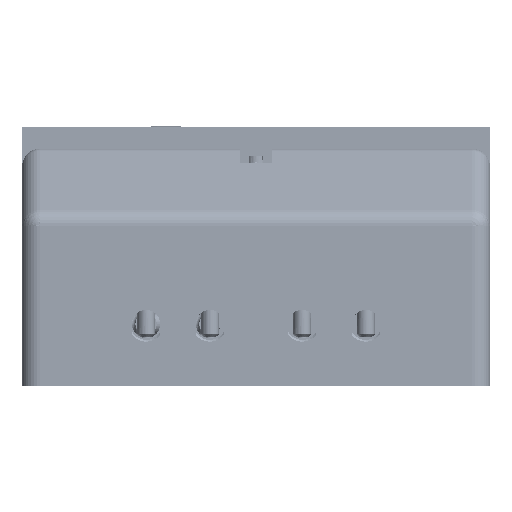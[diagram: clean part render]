
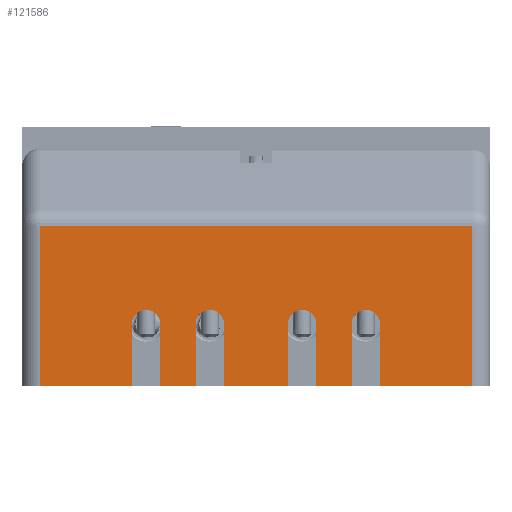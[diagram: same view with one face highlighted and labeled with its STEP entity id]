
A CAD part, front view. The second image highlights one B-rep face of the part: STEP entity #121586.
In plain terms, the highlighted planar face has unit normal (0, -1, 0).
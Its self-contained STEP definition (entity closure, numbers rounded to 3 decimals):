
#121586=ADVANCED_FACE('',(#328172),#328174,.F.);
#328172=FACE_BOUND('',#328173,.T.);
#328173=EDGE_LOOP('',(#504479,#504480,#504481,#504482,#504483,#504484,#504485,#504486,
#504487,#504488,#504489,#504490,#504491,#504492,#504493,#504494,#504495,#504496,
#504497,#504498));
#328174=PLANE('',#328175);
#328175=AXIS2_PLACEMENT_3D('',#328176,#328177,#328178);
#328176=CARTESIAN_POINT('',(66.,-98.2,-71.6));
#328177=DIRECTION('',(0.,1.,0.));
#328178=DIRECTION('',(0.,0.,1.));
#504479=ORIENTED_EDGE('',*,*,#598275,.F.);
#504480=ORIENTED_EDGE('',*,*,#598333,.T.);
#504481=ORIENTED_EDGE('',*,*,#598544,.T.);
#504482=ORIENTED_EDGE('',*,*,#598324,.T.);
#504483=ORIENTED_EDGE('',*,*,#598269,.F.);
#504484=ORIENTED_EDGE('',*,*,#598305,.F.);
#504485=ORIENTED_EDGE('',*,*,#598303,.F.);
#504486=ORIENTED_EDGE('',*,*,#598301,.F.);
#504487=ORIENTED_EDGE('',*,*,#598299,.F.);
#504488=ORIENTED_EDGE('',*,*,#598297,.F.);
#504489=ORIENTED_EDGE('',*,*,#598295,.F.);
#504490=ORIENTED_EDGE('',*,*,#598293,.F.);
#504491=ORIENTED_EDGE('',*,*,#598291,.F.);
#504492=ORIENTED_EDGE('',*,*,#598289,.F.);
#504493=ORIENTED_EDGE('',*,*,#598287,.F.);
#504494=ORIENTED_EDGE('',*,*,#598285,.F.);
#504495=ORIENTED_EDGE('',*,*,#598283,.F.);
#504496=ORIENTED_EDGE('',*,*,#598281,.F.);
#504497=ORIENTED_EDGE('',*,*,#598279,.F.);
#504498=ORIENTED_EDGE('',*,*,#598277,.F.);
#598269=EDGE_CURVE('',#685187,#685189,#685190,.T.);
#598275=EDGE_CURVE('',#685197,#685199,#685200,.T.);
#598277=EDGE_CURVE('',#685199,#685202,#685203,.T.);
#598279=EDGE_CURVE('',#685202,#685205,#685206,.T.);
#598281=EDGE_CURVE('',#685205,#685208,#685209,.T.);
#598283=EDGE_CURVE('',#685208,#685211,#685212,.T.);
#598285=EDGE_CURVE('',#685211,#685214,#685215,.T.);
#598287=EDGE_CURVE('',#685214,#685217,#685218,.T.);
#598289=EDGE_CURVE('',#685217,#685220,#685221,.T.);
#598291=EDGE_CURVE('',#685220,#685223,#685224,.T.);
#598293=EDGE_CURVE('',#685223,#685226,#685227,.T.);
#598295=EDGE_CURVE('',#685226,#685229,#685230,.T.);
#598297=EDGE_CURVE('',#685229,#685232,#685233,.T.);
#598299=EDGE_CURVE('',#685232,#685235,#685236,.T.);
#598301=EDGE_CURVE('',#685235,#685238,#685239,.T.);
#598303=EDGE_CURVE('',#685238,#685241,#685242,.T.);
#598305=EDGE_CURVE('',#685241,#685187,#685244,.T.);
#598324=EDGE_CURVE('',#685271,#685189,#685272,.T.);
#598333=EDGE_CURVE('',#685197,#685280,#685282,.T.);
#598544=EDGE_CURVE('',#685280,#685271,#685600,.T.);
#685187=VERTEX_POINT('',#900590);
#685189=VERTEX_POINT('',#900594);
#685190=LINE('',#900595,#900596);
#685197=VERTEX_POINT('',#900613);
#685199=VERTEX_POINT('',#900618);
#685200=LINE('',#900619,#900620);
#685202=VERTEX_POINT('',#900625);
#685203=LINE('',#900626,#900627);
#685205=VERTEX_POINT('',#900632);
#685206=CIRCLE('',#900633,4.);
#685208=VERTEX_POINT('',#900640);
#685209=LINE('',#900641,#900642);
#685211=VERTEX_POINT('',#900647);
#685212=LINE('',#900648,#900649);
#685214=VERTEX_POINT('',#900654);
#685215=LINE('',#900655,#900656);
#685217=VERTEX_POINT('',#900661);
#685218=CIRCLE('',#900662,4.);
#685220=VERTEX_POINT('',#900669);
#685221=LINE('',#900670,#900671);
#685223=VERTEX_POINT('',#900676);
#685224=LINE('',#900677,#900678);
#685226=VERTEX_POINT('',#900683);
#685227=LINE('',#900684,#900685);
#685229=VERTEX_POINT('',#900690);
#685230=CIRCLE('',#900691,4.);
#685232=VERTEX_POINT('',#900698);
#685233=LINE('',#900699,#900700);
#685235=VERTEX_POINT('',#900705);
#685236=LINE('',#900706,#900707);
#685238=VERTEX_POINT('',#900712);
#685239=LINE('',#900713,#900714);
#685241=VERTEX_POINT('',#900719);
#685242=CIRCLE('',#900720,4.);
#685244=LINE('',#900727,#900728);
#685271=VERTEX_POINT('',#900792);
#685272=LINE('',#900793,#900794);
#685280=VERTEX_POINT('',#900824);
#685282=LINE('',#900829,#900830);
#685600=LINE('',#902314,#902315);
#900590=CARTESIAN_POINT('',(-35.,-98.2,-71.6));
#900594=CARTESIAN_POINT('',(-61.,-98.2,-71.6));
#900595=CARTESIAN_POINT('',(-35.,-98.2,-71.6));
#900596=VECTOR('',#900597,1.);
#900597=DIRECTION('',(-1.,0.,0.));
#900613=CARTESIAN_POINT('',(61.,-98.2,-71.6));
#900618=CARTESIAN_POINT('',(35.,-98.2,-71.6));
#900619=CARTESIAN_POINT('',(61.,-98.2,-71.6));
#900620=VECTOR('',#900621,1.);
#900621=DIRECTION('',(-1.,0.,0.));
#900625=CARTESIAN_POINT('',(35.,-98.2,-54.1));
#900626=CARTESIAN_POINT('',(35.,-98.2,-71.6));
#900627=VECTOR('',#900628,1.);
#900628=DIRECTION('',(0.,0.,1.));
#900632=CARTESIAN_POINT('',(27.,-98.2,-54.1));
#900633=AXIS2_PLACEMENT_3D('',#900634,#900635,#900636);
#900634=CARTESIAN_POINT('',(31.,-98.2,-54.1));
#900635=DIRECTION('',(0.,-1.,0.));
#900636=DIRECTION('',(1.,0.,0.));
#900640=CARTESIAN_POINT('',(27.,-98.2,-71.6));
#900641=CARTESIAN_POINT('',(27.,-98.2,-54.1));
#900642=VECTOR('',#900643,1.);
#900643=DIRECTION('',(0.,0.,-1.));
#900647=CARTESIAN_POINT('',(17.,-98.2,-71.6));
#900648=CARTESIAN_POINT('',(27.,-98.2,-71.6));
#900649=VECTOR('',#900650,1.);
#900650=DIRECTION('',(-1.,0.,0.));
#900654=CARTESIAN_POINT('',(17.,-98.2,-54.1));
#900655=CARTESIAN_POINT('',(17.,-98.2,-71.6));
#900656=VECTOR('',#900657,1.);
#900657=DIRECTION('',(0.,0.,1.));
#900661=CARTESIAN_POINT('',(9.,-98.2,-54.1));
#900662=AXIS2_PLACEMENT_3D('',#900663,#900664,#900665);
#900663=CARTESIAN_POINT('',(13.,-98.2,-54.1));
#900664=DIRECTION('',(0.,-1.,0.));
#900665=DIRECTION('',(1.,0.,0.));
#900669=CARTESIAN_POINT('',(9.,-98.2,-71.6));
#900670=CARTESIAN_POINT('',(9.,-98.2,-54.1));
#900671=VECTOR('',#900672,1.);
#900672=DIRECTION('',(0.,0.,-1.));
#900676=CARTESIAN_POINT('',(-9.,-98.2,-71.6));
#900677=CARTESIAN_POINT('',(9.,-98.2,-71.6));
#900678=VECTOR('',#900679,1.);
#900679=DIRECTION('',(-1.,0.,0.));
#900683=CARTESIAN_POINT('',(-9.,-98.2,-54.1));
#900684=CARTESIAN_POINT('',(-9.,-98.2,-71.6));
#900685=VECTOR('',#900686,1.);
#900686=DIRECTION('',(0.,0.,1.));
#900690=CARTESIAN_POINT('',(-17.,-98.2,-54.1));
#900691=AXIS2_PLACEMENT_3D('',#900692,#900693,#900694);
#900692=CARTESIAN_POINT('',(-13.,-98.2,-54.1));
#900693=DIRECTION('',(0.,-1.,0.));
#900694=DIRECTION('',(1.,0.,0.));
#900698=CARTESIAN_POINT('',(-17.,-98.2,-71.6));
#900699=CARTESIAN_POINT('',(-17.,-98.2,-54.1));
#900700=VECTOR('',#900701,1.);
#900701=DIRECTION('',(0.,0.,-1.));
#900705=CARTESIAN_POINT('',(-27.,-98.2,-71.6));
#900706=CARTESIAN_POINT('',(-17.,-98.2,-71.6));
#900707=VECTOR('',#900708,1.);
#900708=DIRECTION('',(-1.,0.,0.));
#900712=CARTESIAN_POINT('',(-27.,-98.2,-54.1));
#900713=CARTESIAN_POINT('',(-27.,-98.2,-71.6));
#900714=VECTOR('',#900715,1.);
#900715=DIRECTION('',(0.,0.,1.));
#900719=CARTESIAN_POINT('',(-35.,-98.2,-54.1));
#900720=AXIS2_PLACEMENT_3D('',#900721,#900722,#900723);
#900721=CARTESIAN_POINT('',(-31.,-98.2,-54.1));
#900722=DIRECTION('',(0.,-1.,0.));
#900723=DIRECTION('',(1.,0.,0.));
#900727=CARTESIAN_POINT('',(-35.,-98.2,-54.1));
#900728=VECTOR('',#900729,1.);
#900729=DIRECTION('',(0.,0.,-1.));
#900792=CARTESIAN_POINT('',(-61.,-98.2,-26.351));
#900793=CARTESIAN_POINT('',(-61.,-98.2,-26.351));
#900794=VECTOR('',#900795,1.);
#900795=DIRECTION('',(0.,0.,-1.));
#900824=CARTESIAN_POINT('',(61.,-98.2,-26.351));
#900829=CARTESIAN_POINT('',(61.,-98.2,-71.6));
#900830=VECTOR('',#900831,1.);
#900831=DIRECTION('',(0.,0.,1.));
#902314=CARTESIAN_POINT('',(61.,-98.2,-26.351));
#902315=VECTOR('',#902316,1.);
#902316=DIRECTION('',(-1.,0.,0.));
